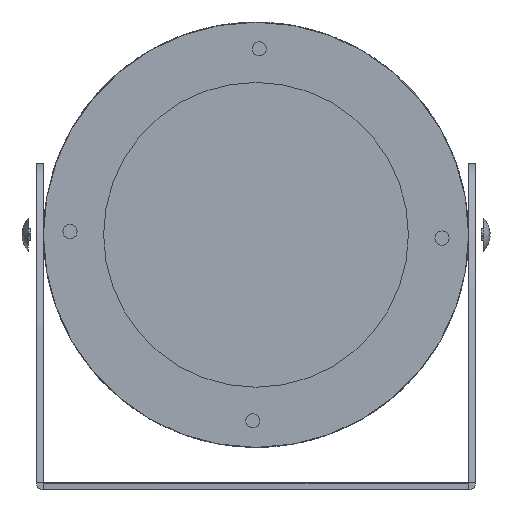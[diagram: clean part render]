
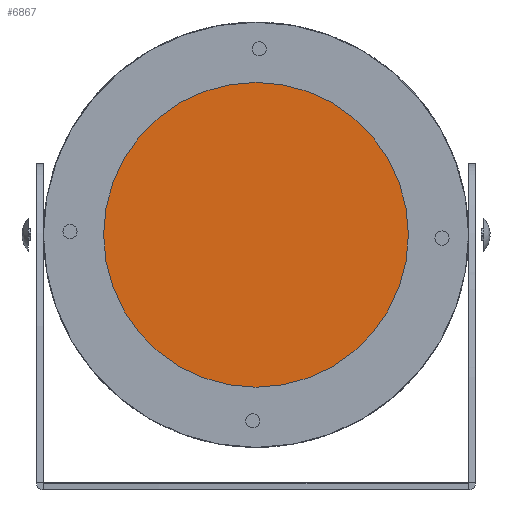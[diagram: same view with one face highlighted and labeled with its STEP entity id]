
A CAD part, front view. The second image highlights one B-rep face of the part: STEP entity #6867.
In plain terms, the highlighted planar face has unit normal (0, -1, 0).
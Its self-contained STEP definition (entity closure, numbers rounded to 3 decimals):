
#167=FACE_BOUND('',#1220,.T.);
#168=FACE_BOUND('',#1221,.T.);
#169=FACE_BOUND('',#1222,.T.);
#170=FACE_BOUND('',#1223,.T.);
#401=CIRCLE('',#7385,2.);
#403=CIRCLE('',#7388,2.);
#405=CIRCLE('',#7391,2.);
#407=CIRCLE('',#7394,2.);
#409=CIRCLE('',#7397,58.75);
#770=FACE_OUTER_BOUND('',#1219,.T.);
#1219=EDGE_LOOP('',(#6195));
#1220=EDGE_LOOP('',(#6196));
#1221=EDGE_LOOP('',(#6197));
#1222=EDGE_LOOP('',(#6198));
#1223=EDGE_LOOP('',(#6199));
#3316=VERTEX_POINT('',#14962);
#3318=VERTEX_POINT('',#14968);
#3320=VERTEX_POINT('',#14974);
#3322=VERTEX_POINT('',#14980);
#3324=VERTEX_POINT('',#14986);
#4272=EDGE_CURVE('',#3316,#3316,#401,.T.);
#4275=EDGE_CURVE('',#3318,#3318,#403,.T.);
#4278=EDGE_CURVE('',#3320,#3320,#405,.T.);
#4281=EDGE_CURVE('',#3322,#3322,#407,.T.);
#4284=EDGE_CURVE('',#3324,#3324,#409,.T.);
#6195=ORIENTED_EDGE('',*,*,#4284,.F.);
#6196=ORIENTED_EDGE('',*,*,#4272,.T.);
#6197=ORIENTED_EDGE('',*,*,#4275,.T.);
#6198=ORIENTED_EDGE('',*,*,#4278,.T.);
#6199=ORIENTED_EDGE('',*,*,#4281,.T.);
#6506=PLANE('',#7396);
#6867=ADVANCED_FACE('',(#770,#167,#168,#169,#170),#6506,.T.);
#7385=AXIS2_PLACEMENT_3D('',#14963,#9118,#9119);
#7388=AXIS2_PLACEMENT_3D('',#14969,#9125,#9126);
#7391=AXIS2_PLACEMENT_3D('',#14975,#9132,#9133);
#7394=AXIS2_PLACEMENT_3D('',#14981,#9139,#9140);
#7396=AXIS2_PLACEMENT_3D('',#14985,#9144,#9145);
#7397=AXIS2_PLACEMENT_3D('',#14987,#9146,#9147);
#9118=DIRECTION('center_axis',(0.,1.,0.));
#9119=DIRECTION('ref_axis',(0.,0.,
-1.));
#9125=DIRECTION('center_axis',(0.,1.,0.));
#9126=DIRECTION('ref_axis',(-1.,0.,0.));
#9132=DIRECTION('center_axis',(0.,1.,0.));
#9133=DIRECTION('ref_axis',(0.,0.,1.));
#9139=DIRECTION('center_axis',(0.,1.,0.));
#9140=DIRECTION('ref_axis',(1.,0.,0.));
#9144=DIRECTION('center_axis',(0.,-1.,0.));
#9145=DIRECTION('ref_axis',(1.,0.,0.));
#9146=DIRECTION('center_axis',(0.,1.,0.));
#9147=DIRECTION('ref_axis',(1.,0.,0.));
#14962=CARTESIAN_POINT('',(-1347.37,-2957.443,64.468));
#14963=CARTESIAN_POINT('Origin',(-1347.37,-2957.443,62.468));
#14968=CARTESIAN_POINT('',(-1293.799,-2957.443,9.053));
#14969=CARTESIAN_POINT('Origin',(-1295.799,-2957.443,9.053));
#14974=CARTESIAN_POINT('',(-1349.214,-2957.443,-44.518));
#14975=CARTESIAN_POINT('Origin',(-1349.214,-2957.443,-42.518));
#14980=CARTESIAN_POINT('',(-1402.785,-2957.443,10.897));
#14981=CARTESIAN_POINT('Origin',(-1400.785,-2957.443,10.897));
#14985=CARTESIAN_POINT('Origin',(-1348.292,-2957.443,68.725));
#14986=CARTESIAN_POINT('',(-1348.292,-2957.443,-48.775));
#14987=CARTESIAN_POINT('Origin',(-1348.292,-2957.443,9.975));
